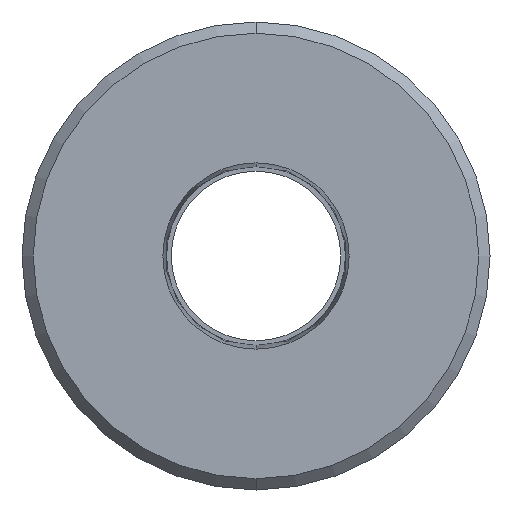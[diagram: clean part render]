
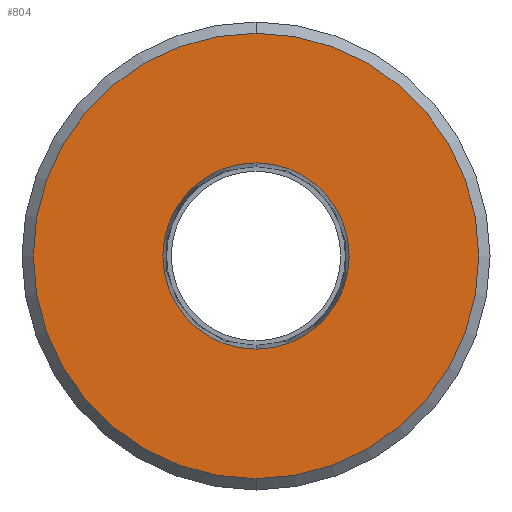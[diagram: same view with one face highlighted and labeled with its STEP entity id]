
A CAD part, front view. The second image highlights one B-rep face of the part: STEP entity #804.
In plain terms, the highlighted planar face has unit normal (0, -1, 0).
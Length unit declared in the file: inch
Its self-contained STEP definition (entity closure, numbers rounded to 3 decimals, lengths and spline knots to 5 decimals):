
#171 = VERTEX_POINT ( 'NONE', #327 ) ;
#194 = ORIENTED_EDGE ( 'NONE', *, *, #823, .T. ) ;
#196 = VERTEX_POINT ( 'NONE', #684 ) ;
#204 = DIRECTION ( 'NONE',  ( 0., -1., 0. ) ) ;
#298 = CARTESIAN_POINT ( 'NONE',  ( 0., 0., 0. ) ) ;
#318 = ORIENTED_EDGE ( 'NONE', *, *, #819, .F. ) ;
#326 = CARTESIAN_POINT ( 'NONE',  ( 0., 0., 0. ) ) ;
#327 = CARTESIAN_POINT ( 'NONE',  ( 0., 0., 0.49756 ) ) ;
#348 = EDGE_LOOP ( 'NONE', ( #500, #194 ) ) ;
#356 = EDGE_CURVE ( 'NONE', #479, #196, #883, .T. ) ;
#370 = DIRECTION ( 'NONE',  ( 0., -1., 0. ) ) ;
#386 = AXIS2_PLACEMENT_3D ( 'NONE', #610, #204, #683 ) ;
#389 = CIRCLE ( 'NONE', #432, 0.49756 ) ;
#398 = DIRECTION ( 'NONE',  ( 0., 0., -1. ) ) ;
#421 = VERTEX_POINT ( 'NONE', #758 ) ;
#432 = AXIS2_PLACEMENT_3D ( 'NONE', #326, #829, #398 ) ;
#442 = DIRECTION ( 'NONE',  ( 0., 1., 0. ) ) ;
#451 = DIRECTION ( 'NONE',  ( 0., 0., 1. ) ) ;
#453 = AXIS2_PLACEMENT_3D ( 'NONE', #298, #442, #451 ) ;
#465 = AXIS2_PLACEMENT_3D ( 'NONE', #797, #370, #891 ) ;
#479 = VERTEX_POINT ( 'NONE', #488 ) ;
#488 = CARTESIAN_POINT ( 'NONE',  ( 0., 0., 1.19 ) ) ;
#490 = CARTESIAN_POINT ( 'NONE',  ( 0., 0., 0. ) ) ;
#493 = DIRECTION ( 'NONE',  ( 0., -1., 0. ) ) ;
#497 = CIRCLE ( 'NONE', #386, 1.19 ) ;
#500 = ORIENTED_EDGE ( 'NONE', *, *, #356, .T. ) ;
#506 = PLANE ( 'NONE',  #453 ) ;
#542 = DIRECTION ( 'NONE',  ( 0., 0., 1. ) ) ;
#579 = EDGE_LOOP ( 'NONE', ( #318, #675 ) ) ;
#610 = CARTESIAN_POINT ( 'NONE',  ( 0., 0., 0. ) ) ;
#671 = FACE_OUTER_BOUND ( 'NONE', #348, .T. ) ;
#675 = ORIENTED_EDGE ( 'NONE', *, *, #802, .F. ) ;
#683 = DIRECTION ( 'NONE',  ( 0., 0., 1. ) ) ;
#684 = CARTESIAN_POINT ( 'NONE',  ( 0., 0., -1.19 ) ) ;
#693 = CIRCLE ( 'NONE', #465, 0.49756 ) ;
#705 = AXIS2_PLACEMENT_3D ( 'NONE', #490, #493, #542 ) ;
#758 = CARTESIAN_POINT ( 'NONE',  ( 0., 0., -0.49756 ) ) ;
#797 = CARTESIAN_POINT ( 'NONE',  ( 0., 0., 0. ) ) ;
#802 = EDGE_CURVE ( 'NONE', #171, #421, #693, .T. ) ;
#804 = ADVANCED_FACE ( 'NONE', ( #671, #850 ), #506, .F. ) ;
#819 = EDGE_CURVE ( 'NONE', #421, #171, #389, .T. ) ;
#823 = EDGE_CURVE ( 'NONE', #196, #479, #497, .T. ) ;
#829 = DIRECTION ( 'NONE',  ( 0., -1., 0. ) ) ;
#850 = FACE_BOUND ( 'NONE', #579, .T. ) ;
#883 = CIRCLE ( 'NONE', #705, 1.19 ) ;
#891 = DIRECTION ( 'NONE',  ( 0., 0., -1. ) ) ;
